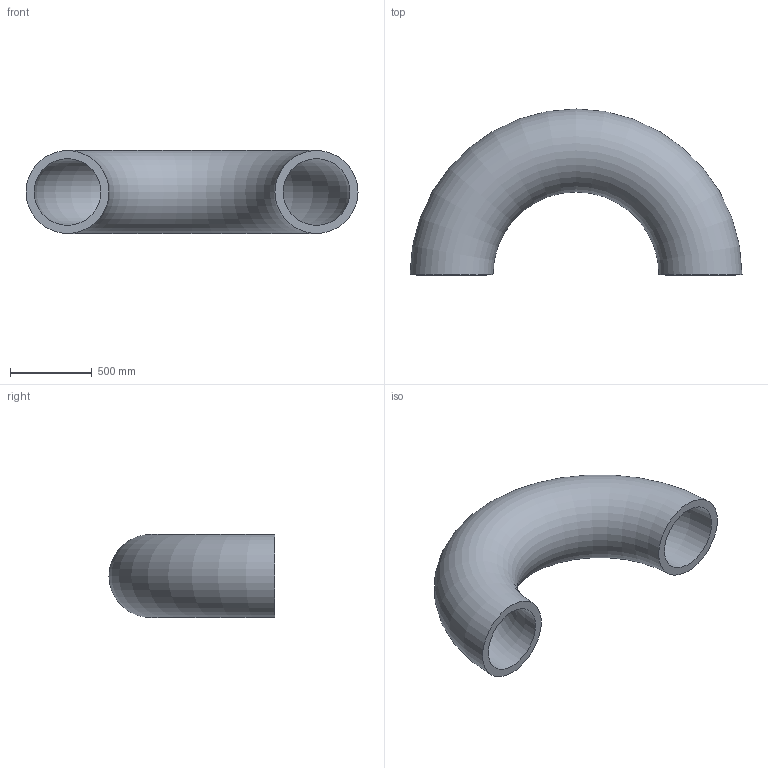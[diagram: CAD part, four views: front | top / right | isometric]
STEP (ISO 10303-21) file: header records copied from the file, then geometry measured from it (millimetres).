
FILE_DESCRIPTION(/* description */ (''),/* implementation_level */ '2;1');
FILE_NAME(/* name */ 'C:\Users\D\Documents\Inventor\HP\JIS\配管\エルボ ロング 180°\Sch160\Elbow180-long-500A-Sch160.stp',/* time_stamp */ '2022-06-14T14:57:23+09:00',/* author */ ('D'),/* organization */ (''),/* preprocessor_version */ 'ST-DEVELOPER v18',/* originating_system */ 'Autodesk Inventor 2020',/* authorisation */ '');
FILE_SCHEMA (('AUTOMOTIVE_DESIGN { 1 0 10303 214 3 1 1 }'));
Length unit declared in the file: millimetre
Products named in the file (1): Elbow-long-90-15A-SGP
Bounding box: 2032 x 1016 x 508 mm (x, y, z)
Volume: 172222622.9 mm3; surface area: 7032789.9 mm2
Topology: 1 solids, 1 shells, 4 faces, 10 edges, 8 vertices
Faces by surface type: torus 2, plane 2
Entity records: 181 total; most frequent: DIRECTION 30, CARTESIAN_POINT 23, ORIENTED_EDGE 20, AXIS2_PLACEMENT_3D 15, CIRCLE 10, EDGE_CURVE 10, VERTEX_POINT 8, EDGE_LOOP 6
